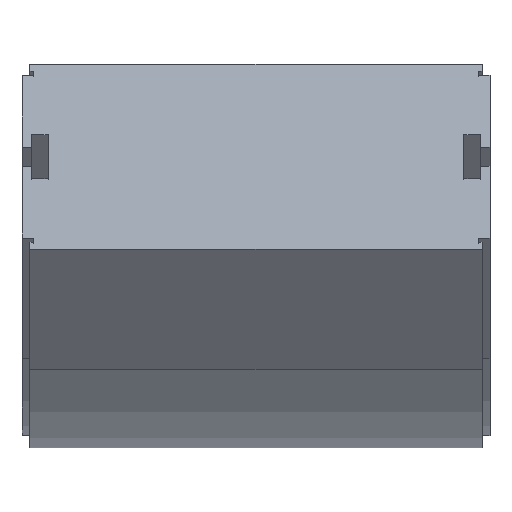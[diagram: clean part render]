
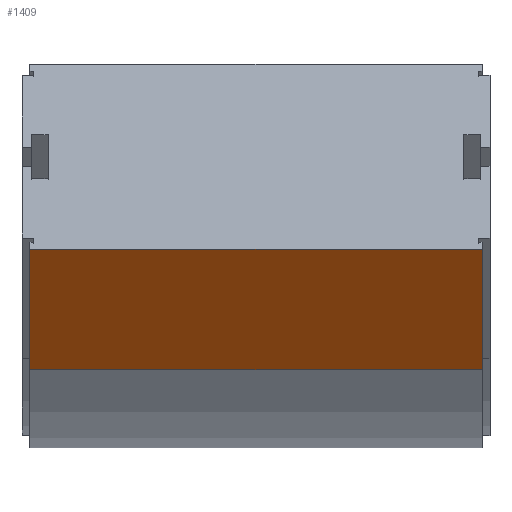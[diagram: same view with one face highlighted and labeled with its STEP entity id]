
A CAD part, top view. The second image highlights one B-rep face of the part: STEP entity #1409.
In plain terms, the highlighted planar face has unit normal (0, -0.94, 0.342).
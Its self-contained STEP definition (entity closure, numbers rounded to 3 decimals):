
#49 = VECTOR ( 'NONE', #3053, 1000. ) ;
#281 = ORIENTED_EDGE ( 'NONE', *, *, #3067, .T. ) ;
#485 = CARTESIAN_POINT ( 'NONE',  ( -96.65, -9.313, 335.375 ) ) ;
#512 = VECTOR ( 'NONE', #2173, 1000. ) ;
#540 = EDGE_CURVE ( 'NONE', #2779, #824, #1753, .T. ) ;
#609 = DIRECTION ( 'NONE',  ( -1., 0., 0. ) ) ;
#732 = CARTESIAN_POINT ( 'NONE',  ( 96.65, 41.99, 476.329 ) ) ;
#738 = AXIS2_PLACEMENT_3D ( 'NONE', #1121, #1071, #2054 ) ;
#762 = CARTESIAN_POINT ( 'NONE',  ( -96.65, 41.99, 476.329 ) ) ;
#767 = LINE ( 'NONE', #865, #49 ) ;
#824 = VERTEX_POINT ( 'NONE', #762 ) ;
#839 = VECTOR ( 'NONE', #1718, 1000. ) ;
#865 = CARTESIAN_POINT ( 'NONE',  ( 96.65, -9.313, 335.375 ) ) ;
#1021 = ORIENTED_EDGE ( 'NONE', *, *, #2212, .F. ) ;
#1071 = DIRECTION ( 'NONE',  ( 0., 0.94, -0.342 ) ) ;
#1075 = EDGE_LOOP ( 'NONE', ( #2985, #281, #1773, #1021 ) ) ;
#1121 = CARTESIAN_POINT ( 'NONE',  ( -96.65, -9.313, 335.375 ) ) ;
#1221 = LINE ( 'NONE', #485, #512 ) ;
#1264 = CARTESIAN_POINT ( 'NONE',  ( -96.65, -9.313, 335.375 ) ) ;
#1276 = CARTESIAN_POINT ( 'NONE',  ( -96.65, 41.99, 476.329 ) ) ;
#1338 = PLANE ( 'NONE',  #738 ) ;
#1401 = VERTEX_POINT ( 'NONE', #1815 ) ;
#1409 = ADVANCED_FACE ( 'NONE', ( #2741 ), #1338, .F. ) ;
#1718 = DIRECTION ( 'NONE',  ( 0., 0.342, 0.94 ) ) ;
#1728 = EDGE_CURVE ( 'NONE', #1401, #2003, #1221, .T. ) ;
#1753 = LINE ( 'NONE', #1276, #2481 ) ;
#1773 = ORIENTED_EDGE ( 'NONE', *, *, #540, .T. ) ;
#1815 = CARTESIAN_POINT ( 'NONE',  ( 96.65, -9.313, 335.375 ) ) ;
#2003 = VERTEX_POINT ( 'NONE', #1264 ) ;
#2054 = DIRECTION ( 'NONE',  ( 0., 0.342, 0.94 ) ) ;
#2173 = DIRECTION ( 'NONE',  ( -1., 0., 0. ) ) ;
#2181 = CARTESIAN_POINT ( 'NONE',  ( -96.65, -9.313, 335.375 ) ) ;
#2212 = EDGE_CURVE ( 'NONE', #2003, #824, #2937, .T. ) ;
#2481 = VECTOR ( 'NONE', #609, 1000. ) ;
#2741 = FACE_OUTER_BOUND ( 'NONE', #1075, .T. ) ;
#2779 = VERTEX_POINT ( 'NONE', #732 ) ;
#2937 = LINE ( 'NONE', #2181, #839 ) ;
#2985 = ORIENTED_EDGE ( 'NONE', *, *, #1728, .F. ) ;
#3053 = DIRECTION ( 'NONE',  ( 0., 0.342, 0.94 ) ) ;
#3067 = EDGE_CURVE ( 'NONE', #1401, #2779, #767, .T. ) ;
